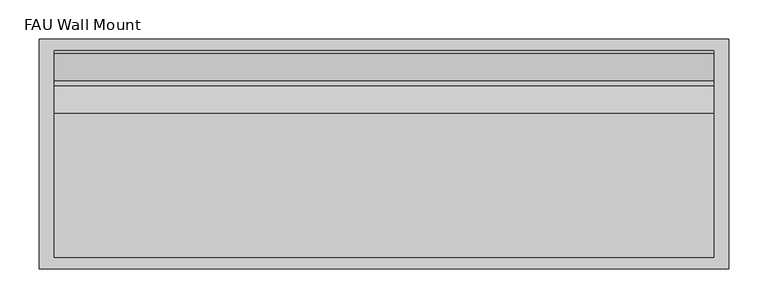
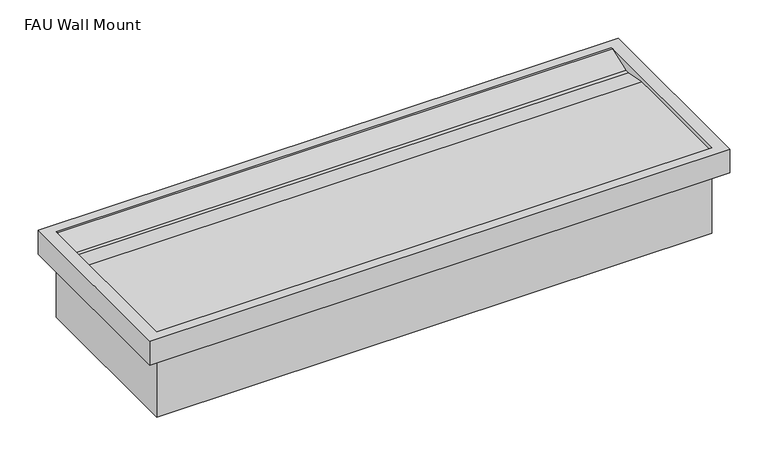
"""IFC4 building model written with IfcOpenShell, lengths in millimetres: proxy geometry, FAU Wall Mount : 34.5W x 11.5h x 8.5D."""

import ifcopenshell
import ifcopenshell.guid

model = None  # the IFC model being written
_history = None  # IfcOwnerHistory: only IFC2X3 demands one
_inside = {}  # id of a spatial element -> (the spatial element, [elements in it])
_under = {}  # id of a project, library or spatial element -> (it, [spatial elements below it])
_declared = {}  # id of a project -> (the project, [libraries it declares])
_typed = {}  # id of a type object -> (the type object, [elements of that type])
_made_of = {}  # id of a material, layer set ... -> (it, [elements and type objects made of it])


def new_model(schema):
    """Start an empty IFC model of exactly this schema.

    Asked for "IFC4X3", IfcOpenShell would pick the latest addendum, in which some entities
    have other attributes; the version numbers below select the first issue.
    IFC2X3 requires an IfcOwnerHistory on every rooted entity: one is made here for all.
    """
    global model, _history
    if schema == "IFC4X3":
        model = ifcopenshell.file(schema_version=(4, 3, 0, 0))
    else:
        model = ifcopenshell.file(schema=schema)
    _inside.clear()
    _under.clear()
    _declared.clear()
    _typed.clear()
    _made_of.clear()
    _history = None
    if model.schema == "IFC2X3":
        org = make("IfcOrganization", Name="unknown")
        user = make(
            "IfcPersonAndOrganization",
            ThePerson=make("IfcPerson", FamilyName="unknown"),
            TheOrganization=org,
        )
        app = make(
            "IfcApplication",
            ApplicationDeveloper=org,
            Version="unknown",
            ApplicationFullName="unknown",
            ApplicationIdentifier="unknown",
        )
        _history = make(
            "IfcOwnerHistory",
            OwningUser=user,
            OwningApplication=app,
            ChangeAction="ADDED",
            CreationDate=0,
        )
    return model


def make(cls, **values):
    """One entity of the class cls with the attributes given. An attribute that is None is left unset."""
    return model.create_entity(
        cls, **{name: value for name, value in values.items() if value is not None}
    )


def rooted(cls, **values):
    """An entity with a GlobalId (a new one), such as an element, a storey or a relation."""
    return make(cls, GlobalId=ifcopenshell.guid.new(), OwnerHistory=_history, **values)


def si_unit(unit_type, name, prefix=None):
    """IfcSIUnit, for example si_unit("LENGTHUNIT", "METRE", prefix="MILLI")."""
    return make("IfcSIUnit", UnitType=unit_type, Prefix=prefix, Name=name)


def assignment(units):
    """IfcUnitAssignment: the units of a project."""
    return None if units is None else make("IfcUnitAssignment", Units=units)


def point(xyz):
    """IfcCartesianPoint."""
    return None if xyz is None else make("IfcCartesianPoint", Coordinates=xyz)


def direction(xyz):
    """IfcDirection."""
    return None if xyz is None else make("IfcDirection", DirectionRatios=xyz)


def frame(location, z_axis=None, x_axis=None):
    """IfcAxis2Placement3D, a coordinate frame: its origin and axes. An axis left out is left unset."""
    return make(
        "IfcAxis2Placement3D",
        Location=point(location),
        Axis=direction(z_axis),
        RefDirection=direction(x_axis),
    )


def origin():
    """The frame at (0, 0, 0) with its axes left unset."""
    return frame((0.0, 0.0, 0.0))


def origin_with_axes():
    """The frame at (0, 0, 0) with the z axis (0, 0, 1) and the x axis (1, 0, 0) written out."""
    return frame((0.0, 0.0, 0.0), z_axis=(0.0, 0.0, 1.0), x_axis=(1.0, 0.0, 0.0))


def place(relative_to, where):
    """IfcLocalPlacement: puts the frame where relative to a parent placement (None: the world)."""
    return make(
        "IfcLocalPlacement", PlacementRelTo=relative_to, RelativePlacement=where
    )


def context(
    kind, dimensions, precision=None, world=None, true_north=None, identifier=None
):
    """IfcGeometricRepresentationContext, for example the 3D "Model" context."""
    return make(
        "IfcGeometricRepresentationContext",
        ContextIdentifier=identifier,
        ContextType=kind,
        CoordinateSpaceDimension=dimensions,
        Precision=precision,
        WorldCoordinateSystem=world,
        TrueNorth=true_north,
    )


def project(units=None, contexts=None):
    """IfcProject with its units and contexts."""
    return rooted(
        "IfcProject",
        Name="project",
        RepresentationContexts=contexts,
        UnitsInContext=assignment(units),
    )


def spatial(cls, under=None, at=None, **own):
    """A site, building, storey or space (cls), placed at a placement, below another one or the project."""
    s = rooted(cls, ObjectPlacement=at, **own)
    if under is not None:
        _under.setdefault(under.id(), (under, []))[1].append(s)
    return s


def polyline(points):
    """IfcPolyline through the points."""
    return make("IfcPolyline", Points=[point(p) for p in points])


def outline(outer, holes=None, kind="AREA"):
    """IfcArbitraryClosedProfileDef: a profile drawn as a closed curve; with holes, ...WithVoids."""
    if holes is None:
        return make("IfcArbitraryClosedProfileDef", ProfileType=kind, OuterCurve=outer)
    return make(
        "IfcArbitraryProfileDefWithVoids",
        ProfileType=kind,
        OuterCurve=outer,
        InnerCurves=holes,
    )


def extrude(swept, where, along, depth):
    """IfcExtrudedAreaSolid: the profile swept, set in the frame where, extruded along a direction by depth."""
    return make(
        "IfcExtrudedAreaSolid",
        SweptArea=swept,
        Position=where,
        ExtrudedDirection=direction(along),
        Depth=depth,
    )


def shape(context_of_items, identifier, shape_type, items):
    """IfcShapeRepresentation: the items that make up one representation, for example the "Body"."""
    return make(
        "IfcShapeRepresentation",
        ContextOfItems=context_of_items,
        RepresentationIdentifier=identifier,
        RepresentationType=shape_type,
        Items=items,
    )


def source(mapping_origin, context_of_items, identifier, shape_type, items):
    """IfcRepresentationMap: a shape defined once, which mapped items show again and again."""
    return make(
        "IfcRepresentationMap",
        MappingOrigin=mapping_origin,
        MappedRepresentation=shape(context_of_items, identifier, shape_type, items),
    )


def transform(
    local_origin,
    x_axis=None,
    y_axis=None,
    z_axis=None,
    scale=None,
    scale2=None,
    scale3=None,
    uniform=True,
):
    """IfcCartesianTransformationOperator3D, or its non-uniform kind. x_axis, y_axis, z_axis: its Axis1, 2, 3."""
    if uniform:
        return make(
            "IfcCartesianTransformationOperator3D",
            Axis1=direction(x_axis),
            Axis2=direction(y_axis),
            LocalOrigin=point(local_origin),
            Scale=scale,
            Axis3=direction(z_axis),
        )
    return make(
        "IfcCartesianTransformationOperator3DnonUniform",
        Axis1=direction(x_axis),
        Axis2=direction(y_axis),
        LocalOrigin=point(local_origin),
        Scale=scale,
        Axis3=direction(z_axis),
        Scale2=scale2,
        Scale3=scale3,
    )


def mapped(mapping_source, mapping_target):
    """IfcMappedItem: shows the shape of a source again, moved by a transform."""
    return make(
        "IfcMappedItem", MappingSource=mapping_source, MappingTarget=mapping_target
    )


def made_of(thing, what):
    """Note that an element or type object is made of a material, layer set ...; save() writes the relation."""
    if what is not None:
        _made_of.setdefault(what.id(), (what, []))[1].append(thing)
    return thing


def element(
    cls,
    number,
    at=None,
    inside=None,
    cuts=None,
    type_object=None,
    material=None,
    context=None,
    identifier="Body",
    shape_type=None,
    held_by="IfcProductDefinitionShape",
    body=None,
    shapes=None,
    **own,
):
    """One element of the class cls, such as IfcWall. Its Tag is "e" and its number.

    at: its placement. inside: the storey or other place that contains it. cuts: it is an
    opening in that element (IfcRelVoidsElement). A single representation is given by context,
    identifier, shape_type and body (its items); several are given by shapes. held_by: the class
    of the entity that holds the representations. save() writes the other relations.
    """
    e = rooted(cls, Tag="e%d" % number, ObjectPlacement=at, **own)
    if body is not None:
        shapes = [shape(context, identifier, shape_type, body)]
    if shapes is not None:
        e.Representation = make(held_by, Representations=shapes)
    if inside is not None:
        _inside.setdefault(inside.id(), (inside, []))[1].append(e)
    if cuts is not None:
        rooted(
            "IfcRelVoidsElement", RelatingBuildingElement=cuts, RelatedOpeningElement=e
        )
    if type_object is not None:
        _typed.setdefault(type_object.id(), (type_object, []))[1].append(e)
    return made_of(e, material)


def aggregate(whole, parts):
    """IfcRelAggregates: a whole, such as a stair, and the parts it consists of."""
    return rooted("IfcRelAggregates", RelatingObject=whole, RelatedObjects=parts)


def save(model, path):
    """Write the relations noted so far, then the file.

    IfcRelAggregates (storeys below a building ...), IfcRelContainedInSpatialStructure (elements
    in a storey), IfcRelDefinesByType, IfcRelAssociatesMaterial and IfcRelDeclares: one each for
    every whole, place, type object, material and project.
    """
    for whole, parts in _under.values():
        aggregate(whole, parts)
    for where, things in _inside.values():
        rooted(
            "IfcRelContainedInSpatialStructure",
            RelatedElements=things,
            RelatingStructure=where,
        )
    for kind, things in _typed.values():
        rooted("IfcRelDefinesByType", RelatedObjects=things, RelatingType=kind)
    for what, things in _made_of.values():
        rooted("IfcRelAssociatesMaterial", RelatedObjects=things, RelatingMaterial=what)
    for by, libraries in _declared.values():
        rooted("IfcRelDeclares", RelatingContext=by, RelatedDefinitions=libraries)
    model.write(path)


def fau_wall_mount_0227b3ac(model_context):
    return source(origin(), model_context, "Body", "SweptSolid", [
        extrude(outline(polyline([(-131.7625, 31.75), (52.3875, 31.75), (87.3125, 25.4), (93.6625, 25.4), (128.5875, 38.1), (131.7625, 38.1), (131.7625, 0.0), (-131.7625, 0.0), (-131.7625, 31.75)])), frame((-419.496875, 0.0, 0.0), z_axis=(1.0, 0.0, 0.0), x_axis=(0.0, 1.0, 0.0)), (0.0, 0.0, 1.0), 838.99375),
        extrude(outline(polyline([(438.15, 146.05), (438.15, -146.05), (-438.15, -146.05), (-438.15, 146.05), (438.15, 146.05)]), holes=[polyline([(419.496875, 131.7625), (-419.496875, 131.7625), (-419.496875, -131.7625), (419.496875, -131.7625), (419.496875, 131.7625)])]), origin_with_axes(), (0.0, 0.0, 1.0), 38.1),
        extrude(outline(polyline([(419.496875, 131.7625), (419.496875, -131.7625), (-419.496875, -131.7625), (-419.496875, 131.7625), (419.496875, 131.7625)])), frame((0.0, 0.0, -98.425), z_axis=(0.0, 0.0, 1.0), x_axis=(1.0, 0.0, 0.0)), (0.0, 0.0, 1.0), 98.425),
    ])


if __name__ == "__main__":
    model = new_model("IFC4")
    model_context = context("Model", 3, world=origin())
    ifc_project = project(units=[si_unit("LENGTHUNIT", "METRE", prefix="MILLI")], contexts=[model_context])
    site = spatial("IfcSite", under=ifc_project)
    building = spatial("IfcBuilding", under=site)
    placement = place(None, origin())
    fau_wall_mount_shape = fau_wall_mount_0227b3ac(model_context)
    element("IfcBuildingElementProxy", 1, Name="FAU Wall Mount : 34.5W x 11.5h x 8.5D", ObjectType="FAU Wall Mount : 34.5W x 11.5h x 8.5D", at=placement, inside=building, context=model_context, shape_type="MappedRepresentation", body=[
        mapped(fau_wall_mount_shape, transform((0.0, 0.0, 0.0), x_axis=(1.0, 0.0, 0.0), y_axis=(0.0, 1.0, 0.0), z_axis=(0.0, 0.0, 1.0))),
    ])
    save(model, "model.ifc")
